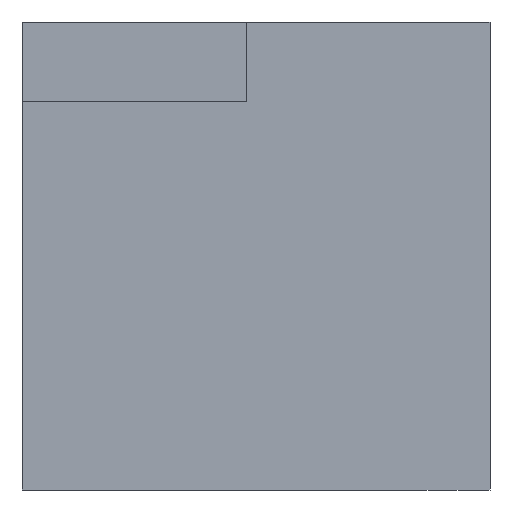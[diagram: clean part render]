
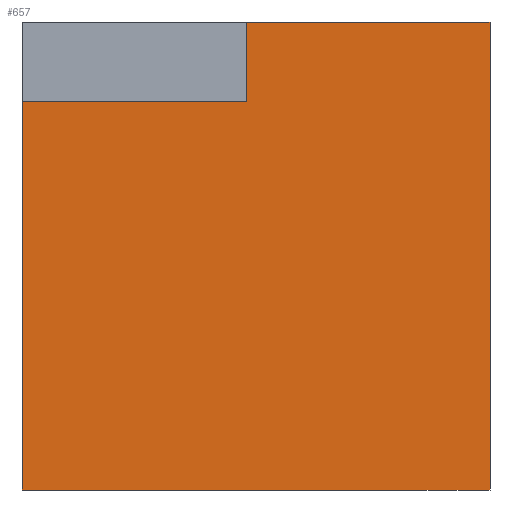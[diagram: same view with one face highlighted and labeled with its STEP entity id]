
A CAD part, left-side view. The second image highlights one B-rep face of the part: STEP entity #657.
In plain terms, the highlighted planar face has unit normal (-1, 0, 0).
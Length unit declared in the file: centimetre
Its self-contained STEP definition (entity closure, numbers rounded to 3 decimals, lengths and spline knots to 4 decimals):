
#21 = LINE ( 'NONE', #192, #535 ) ;
#51 = DIRECTION ( 'NONE',  ( 0., 1., 0. ) ) ;
#67 = ORIENTED_EDGE ( 'NONE', *, *, #561, .F. ) ;
#85 = DIRECTION ( 'NONE',  ( 0., -1., 0. ) ) ;
#129 = FACE_OUTER_BOUND ( 'NONE', #714, .T. ) ;
#135 = DIRECTION ( 'NONE',  ( 1., 0., 0. ) ) ;
#147 = ORIENTED_EDGE ( 'NONE', *, *, #405, .T. ) ;
#168 = LINE ( 'NONE', #406, #363 ) ;
#186 = CARTESIAN_POINT ( 'NONE',  ( 0., 1000., 1000. ) ) ;
#192 = CARTESIAN_POINT ( 'NONE',  ( 0., 1000., 1000. ) ) ;
#211 = DIRECTION ( 'NONE',  ( 0., -1., 0. ) ) ;
#221 = CARTESIAN_POINT ( 'NONE',  ( 0., 521.0174, 1000. ) ) ;
#246 = PLANE ( 'NONE',  #659 ) ;
#248 = CARTESIAN_POINT ( 'NONE',  ( 0., 1000., 0. ) ) ;
#260 = EDGE_CURVE ( 'NONE', #567, #467, #168, .T. ) ;
#277 = VERTEX_POINT ( 'NONE', #221 ) ;
#302 = CARTESIAN_POINT ( 'NONE',  ( 0., 1000., 831.1012 ) ) ;
#304 = DIRECTION ( 'NONE',  ( 0., 0., -1. ) ) ;
#308 = LINE ( 'NONE', #686, #662 ) ;
#322 = LINE ( 'NONE', #587, #611 ) ;
#333 = VECTOR ( 'NONE', #304, 100. ) ;
#335 = LINE ( 'NONE', #508, #468 ) ;
#358 = ORIENTED_EDGE ( 'NONE', *, *, #260, .T. ) ;
#360 = VERTEX_POINT ( 'NONE', #364 ) ;
#363 = VECTOR ( 'NONE', #51, 100. ) ;
#364 = CARTESIAN_POINT ( 'NONE',  ( 0., 0., 1000. ) ) ;
#370 = CARTESIAN_POINT ( 'NONE',  ( 0., 0., 0. ) ) ;
#372 = DIRECTION ( 'NONE',  ( 0., 0., -1. ) ) ;
#376 = ORIENTED_EDGE ( 'NONE', *, *, #514, .T. ) ;
#378 = CARTESIAN_POINT ( 'NONE',  ( 0., 1000., 1000. ) ) ;
#392 = VERTEX_POINT ( 'NONE', #248 ) ;
#393 = CARTESIAN_POINT ( 'NONE',  ( 0., 521.0174, 831.1012 ) ) ;
#400 = ORIENTED_EDGE ( 'NONE', *, *, #671, .F. ) ;
#405 = EDGE_CURVE ( 'NONE', #467, #392, #732, .T. ) ;
#406 = CARTESIAN_POINT ( 'NONE',  ( 0., 521.0174, 831.1012 ) ) ;
#467 = VERTEX_POINT ( 'NONE', #302 ) ;
#468 = VECTOR ( 'NONE', #757, 100. ) ;
#508 = CARTESIAN_POINT ( 'NONE',  ( 0., 0., 1000. ) ) ;
#514 = EDGE_CURVE ( 'NONE', #392, #737, #322, .T. ) ;
#522 = DIRECTION ( 'NONE',  ( 0., 0., 1. ) ) ;
#535 = VECTOR ( 'NONE', #85, 100. ) ;
#561 = EDGE_CURVE ( 'NONE', #360, #737, #335, .T. ) ;
#567 = VERTEX_POINT ( 'NONE', #393 ) ;
#587 = CARTESIAN_POINT ( 'NONE',  ( 0., 1000., 0. ) ) ;
#611 = VECTOR ( 'NONE', #211, 100. ) ;
#657 = ADVANCED_FACE ( 'NONE', ( #129 ), #246, .F. ) ;
#659 = AXIS2_PLACEMENT_3D ( 'NONE', #378, #135, #372 ) ;
#662 = VECTOR ( 'NONE', #522, 100. ) ;
#671 = EDGE_CURVE ( 'NONE', #277, #360, #21, .T. ) ;
#686 = CARTESIAN_POINT ( 'NONE',  ( 0., 521.0174, 831.1012 ) ) ;
#699 = ORIENTED_EDGE ( 'NONE', *, *, #708, .F. ) ;
#708 = EDGE_CURVE ( 'NONE', #567, #277, #308, .T. ) ;
#714 = EDGE_LOOP ( 'NONE', ( #699, #358, #147, #376, #67, #400 ) ) ;
#732 = LINE ( 'NONE', #186, #333 ) ;
#737 = VERTEX_POINT ( 'NONE', #370 ) ;
#757 = DIRECTION ( 'NONE',  ( 0., 0., -1. ) ) ;
